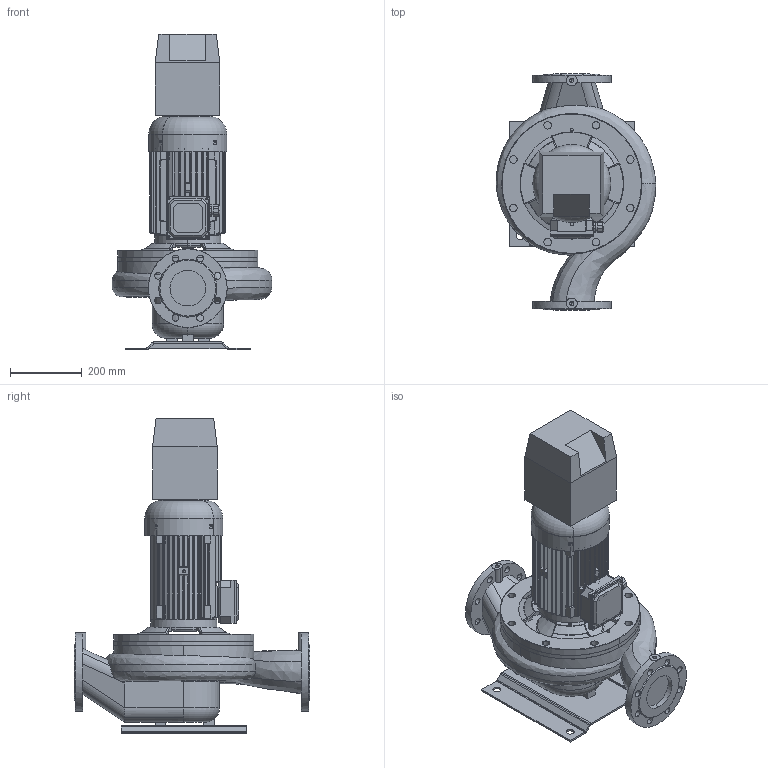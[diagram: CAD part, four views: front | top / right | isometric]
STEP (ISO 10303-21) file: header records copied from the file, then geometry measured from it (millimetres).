
FILE_DESCRIPTION(('STEP AP214'),'1');
FILE_NAME('export.stp','2018-08-08T13:02:07',(' '),(' '),'Spatial InterOp 3D',' ',' ');
FILE_SCHEMA(('AUTOMOTIVE_DESIGN { 1 0 10303 214 1 1 1 1 }'));
Length unit declared in the file: millimetre
Products named in the file (18): 440017; 440016; V_MKP112_2_F31; 480018; 480017; 440018; 440021; 480022; 480020; M25_Blind_Plug; M25_tiivisteholkk; W_L100S4NC400KP; V_TLL100SAL1202; V_PPL100S; P100496; P100495; P100342; NC_Size1
Assembly tree (18 placements, depth 4):
  W_L100S4NC400KP
    V_MKP112_2_F31
      440017
        440016
      480018
        480017
      440018
      440021
      480022
      480020
      M25_Blind_Plug
      M25_tiivisteholkk
    V_TLL100SAL1202
    V_PPL100S
    P100496
      P100495  x2
      P100342
    NC_Size1
Bounding box: 446.61 x 660 x 883.9 mm (x, y, z)
Volume: 32832961.8 mm3; surface area: 2786480.3 mm2
Topology: 14 solids, 14 shells, 1663 faces, 4691 edges, 3078 vertices
Faces by surface type: cylinder 804, plane 567, cone 140, torus 117, bspline 35
Entity records: 67765 total; most frequent: CARTESIAN_POINT 21033, ORIENTED_EDGE 9330, DIRECTION 8975, EDGE_CURVE 4665, AXIS2_PLACEMENT_3D 3426, VERTEX_POINT 3070, LINE 2123, VECTOR 2123
